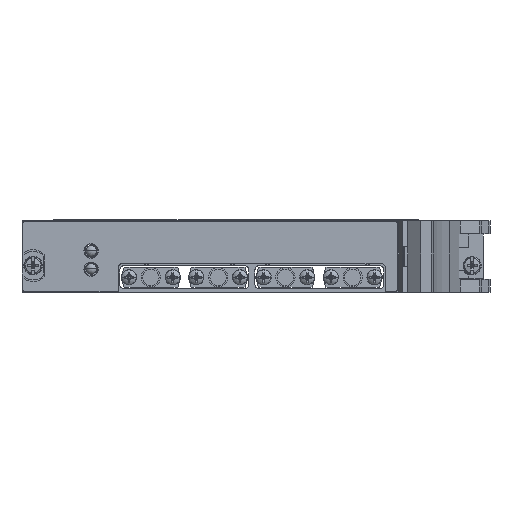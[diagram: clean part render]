
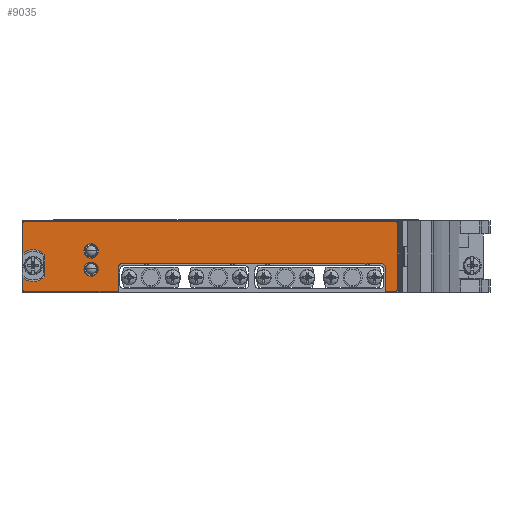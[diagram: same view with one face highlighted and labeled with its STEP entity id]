
A CAD part, left-side view. The second image highlights one B-rep face of the part: STEP entity #9035.
In plain terms, the highlighted planar face has unit normal (-1, 0, 0).
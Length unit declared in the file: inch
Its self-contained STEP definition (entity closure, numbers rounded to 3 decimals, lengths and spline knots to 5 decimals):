
#3040=CARTESIAN_POINT('',(-0.215,-3.37708,0.175));
#3041=DIRECTION('',(-1.,0.,0.));
#3042=DIRECTION('',(0.,-1.,0.));
#3043=AXIS2_PLACEMENT_3D('',#3040,#3041,#3042);
#3045=CARTESIAN_POINT('',(-0.215,-0.537,0.175));
#3046=DIRECTION('',(-1.,0.,0.));
#3047=DIRECTION('',(0.,0.,1.));
#3048=AXIS2_PLACEMENT_3D('',#3045,#3046,#3047);
#3050=DIRECTION('',(0.,-1.,0.));
#3051=VECTOR('',#3050,1.02465);
#3052=CARTESIAN_POINT('',(-0.215,0.53465,-0.083));
#3053=LINE('',#3052,#3051);
#3054=CARTESIAN_POINT('',(-0.215,0.53465,-0.063));
#3055=DIRECTION('',(-1.,0.,0.));
#3056=DIRECTION('',(0.,1.,0.));
#3057=AXIS2_PLACEMENT_3D('',#3054,#3055,#3056);
#3059=DIRECTION('',(0.,0.,-1.));
#3060=VECTOR('',#3059,0.12953);
#3061=CARTESIAN_POINT('',(-0.215,0.55465,0.06653));
#3062=LINE('',#3061,#3060);
#3063=CARTESIAN_POINT('',(-0.215,0.44265,0.201));
#3064=DIRECTION('',(1.,0.,0.));
#3065=DIRECTION('',(0.,-0.737,-0.676));
#3066=AXIS2_PLACEMENT_3D('',#3063,#3064,#3065);
#3068=DIRECTION('',(0.,0.,-1.));
#3069=VECTOR('',#3068,0.23651);
#3070=CARTESIAN_POINT('',(-0.215,0.31365,0.31925));
#3071=LINE('',#3070,#3069);
#3072=CARTESIAN_POINT('',(-0.215,0.44265,0.201));
#3073=DIRECTION('',(1.,0.,0.));
#3074=DIRECTION('',(0.,0.64,0.768));
#3075=AXIS2_PLACEMENT_3D('',#3072,#3073,#3074);
#3077=DIRECTION('',(0.,0.,-1.));
#3078=VECTOR('',#3077,0.32953);
#3079=CARTESIAN_POINT('',(-0.215,0.55465,0.665));
#3080=LINE('',#3079,#3078);
#3081=CARTESIAN_POINT('',(-0.215,0.53465,0.665));
#3082=DIRECTION('',(-1.,0.,0.));
#3083=DIRECTION('',(0.,0.,1.));
#3084=AXIS2_PLACEMENT_3D('',#3081,#3082,#3083);
#3086=DIRECTION('',(0.,1.,0.));
#3087=VECTOR('',#3086,4.07);
#3088=CARTESIAN_POINT('',(-0.215,-3.53535,0.685));
#3089=LINE('',#3088,#3087);
#3090=CARTESIAN_POINT('',(-0.215,-3.53535,0.665));
#3091=DIRECTION('',(-1.,0.,0.));
#3092=DIRECTION('',(0.,-1.,0.));
#3093=AXIS2_PLACEMENT_3D('',#3090,#3091,#3092);
#3095=DIRECTION('',(0.,0.,1.));
#3096=VECTOR('',#3095,0.728);
#3097=CARTESIAN_POINT('',(-0.215,-3.55535,-0.063));
#3098=LINE('',#3097,#3096);
#3099=CARTESIAN_POINT('',(-0.215,-3.53535,-0.063));
#3100=DIRECTION('',(-1.,0.,0.));
#3101=DIRECTION('',(0.,0.,-1.));
#3102=AXIS2_PLACEMENT_3D('',#3099,#3100,#3101);
#3104=DIRECTION('',(0.,-1.,0.));
#3105=VECTOR('',#3104,0.11127);
#3106=CARTESIAN_POINT('',(-0.215,-3.42408,-0.083));
#3107=LINE('',#3106,#3105);
#3108=CARTESIAN_POINT('',(-0.215,-0.19435,0.162));
#3109=DIRECTION('',(-1.,0.,0.));
#3110=DIRECTION('',(0.,-1.,0.));
#3111=AXIS2_PLACEMENT_3D('',#3108,#3109,#3110);
#3113=CARTESIAN_POINT('',(-0.215,-0.19435,0.162));
#3114=DIRECTION('',(-1.,0.,0.));
#3115=DIRECTION('',(0.,1.,0.));
#3116=AXIS2_PLACEMENT_3D('',#3113,#3114,#3115);
#3118=CARTESIAN_POINT('',(-0.215,-0.19435,0.362));
#3119=DIRECTION('',(-1.,0.,0.));
#3120=DIRECTION('',(0.,-1.,0.));
#3121=AXIS2_PLACEMENT_3D('',#3118,#3119,#3120);
#3123=CARTESIAN_POINT('',(-0.215,-0.19435,0.362));
#3124=DIRECTION('',(-1.,0.,0.));
#3125=DIRECTION('',(0.,1.,0.));
#3126=AXIS2_PLACEMENT_3D('',#3123,#3124,#3125);
#3128=DIRECTION('',(0.,0.,-1.));
#3129=VECTOR('',#3128,0.258);
#3130=CARTESIAN_POINT('',(-0.215,-3.42408,0.175));
#3131=LINE('',#3130,#3129);
#3152=DIRECTION('',(0.,-1.,0.));
#3153=VECTOR('',#3152,2.84008);
#3154=CARTESIAN_POINT('',(-0.215,-0.537,0.222));
#3155=LINE('',#3154,#3153);
#3328=DIRECTION('',(0.,0.,1.));
#3329=VECTOR('',#3328,0.258);
#3330=CARTESIAN_POINT('',(-0.215,-0.49,-0.083));
#3331=LINE('',#3330,#3329);
#4767=CARTESIAN_POINT('',(-0.215,0.53465,0.685));
#4768=CARTESIAN_POINT('',(-0.215,0.55465,0.665));
#4769=VERTEX_POINT('',#4767);
#4770=VERTEX_POINT('',#4768);
#4771=CARTESIAN_POINT('',(-0.215,0.55465,0.33547));
#4772=VERTEX_POINT('',#4771);
#4773=CARTESIAN_POINT('',(-0.215,0.31365,0.31925));
#4774=VERTEX_POINT('',#4773);
#4775=CARTESIAN_POINT('',(-0.215,0.31365,0.08275));
#4776=VERTEX_POINT('',#4775);
#4777=CARTESIAN_POINT('',(-0.215,0.55465,0.06653));
#4778=VERTEX_POINT('',#4777);
#4779=CARTESIAN_POINT('',(-0.215,0.55465,-0.063));
#4780=VERTEX_POINT('',#4779);
#4781=CARTESIAN_POINT('',(-0.215,0.53465,-0.083));
#4782=VERTEX_POINT('',#4781);
#4783=CARTESIAN_POINT('',(-0.215,-3.53535,-0.083));
#4784=CARTESIAN_POINT('',(-0.215,-3.55535,-0.063));
#4785=VERTEX_POINT('',#4783);
#4786=VERTEX_POINT('',#4784);
#4787=CARTESIAN_POINT('',(-0.215,-3.55535,0.665));
#4788=VERTEX_POINT('',#4787);
#4789=CARTESIAN_POINT('',(-0.215,-3.53535,0.685));
#4790=VERTEX_POINT('',#4789);
#4791=CARTESIAN_POINT('',(-0.215,-0.27285,0.162));
#4792=CARTESIAN_POINT('',(-0.215,-0.11585,0.162));
#4793=VERTEX_POINT('',#4791);
#4794=VERTEX_POINT('',#4792);
#4795=CARTESIAN_POINT('',(-0.215,-0.27285,0.362));
#4796=CARTESIAN_POINT('',(-0.215,-0.11585,0.362));
#4797=VERTEX_POINT('',#4795);
#4798=VERTEX_POINT('',#4796);
#4799=CARTESIAN_POINT('',(-0.215,-0.537,0.222));
#4800=CARTESIAN_POINT('',(-0.215,-0.49,0.175));
#4801=VERTEX_POINT('',#4799);
#4802=VERTEX_POINT('',#4800);
#4803=CARTESIAN_POINT('',(-0.215,-3.42408,0.175));
#4804=CARTESIAN_POINT('',(-0.215,-3.37708,0.222));
#4805=VERTEX_POINT('',#4803);
#4806=VERTEX_POINT('',#4804);
#4807=CARTESIAN_POINT('',(-0.215,-0.49,-0.083));
#4808=VERTEX_POINT('',#4807);
#4809=CARTESIAN_POINT('',(-0.215,-3.42408,-0.083));
#4810=VERTEX_POINT('',#4809);
#8983=CARTESIAN_POINT('',(-0.215,0.44265,0.201));
#8984=DIRECTION('',(-1.,0.,0.));
#8985=DIRECTION('',(0.,0.,1.));
#8986=AXIS2_PLACEMENT_3D('',#8983,#8984,#8985);
#8987=PLANE('',#8986);
#8989=ORIENTED_EDGE('',*,*,#8988,.F.);
#8991=ORIENTED_EDGE('',*,*,#8990,.T.);
#8993=ORIENTED_EDGE('',*,*,#8992,.F.);
#8995=ORIENTED_EDGE('',*,*,#8994,.T.);
#8997=ORIENTED_EDGE('',*,*,#8996,.F.);
#8999=ORIENTED_EDGE('',*,*,#8998,.F.);
#9001=ORIENTED_EDGE('',*,*,#9000,.F.);
#9003=ORIENTED_EDGE('',*,*,#9002,.F.);
#9005=ORIENTED_EDGE('',*,*,#9004,.F.);
#9007=ORIENTED_EDGE('',*,*,#9006,.F.);
#9009=ORIENTED_EDGE('',*,*,#9008,.F.);
#9011=ORIENTED_EDGE('',*,*,#9010,.F.);
#9012=ORIENTED_EDGE('',*,*,#5456,.F.);
#9014=ORIENTED_EDGE('',*,*,#9013,.F.);
#9016=ORIENTED_EDGE('',*,*,#9015,.F.);
#9018=ORIENTED_EDGE('',*,*,#9017,.F.);
#9020=ORIENTED_EDGE('',*,*,#9019,.F.);
#9022=ORIENTED_EDGE('',*,*,#9021,.F.);
#9023=EDGE_LOOP('',(#8989,#8991,#8993,#8995,#8997,#8999,#9001,#9003,#9005,#9007,
#9009,#9011,#9012,#9014,#9016,#9018,#9020,#9022));
#9024=FACE_OUTER_BOUND('',#9023,.F.);
#9026=ORIENTED_EDGE('',*,*,#9025,.T.);
#9028=ORIENTED_EDGE('',*,*,#9027,.T.);
#9029=EDGE_LOOP('',(#9026,#9028));
#9030=FACE_BOUND('',#9029,.F.);
#9031=ORIENTED_EDGE('',*,*,#8963,.T.);
#9032=ORIENTED_EDGE('',*,*,#8977,.T.);
#9033=EDGE_LOOP('',(#9031,#9032));
#9034=FACE_BOUND('',#9033,.F.);
#9035=ADVANCED_FACE('',(#9024,#9030,#9034),#8987,.T.);
#3044=CIRCLE('',#3043,0.047);
#3049=CIRCLE('',#3048,0.047);
#3058=CIRCLE('',#3057,0.02);
#3067=CIRCLE('',#3066,0.175);
#3076=CIRCLE('',#3075,0.175);
#3085=CIRCLE('',#3084,0.02);
#3094=CIRCLE('',#3093,0.02);
#3103=CIRCLE('',#3102,0.02);
#3112=CIRCLE('',#3111,0.0785);
#3117=CIRCLE('',#3116,0.0785);
#3122=CIRCLE('',#3121,0.0785);
#3127=CIRCLE('',#3126,0.0785);
#5456=EDGE_CURVE('',#4769,#4770,#3085,.T.);
#8963=EDGE_CURVE('',#4797,#4798,#3122,.T.);
#8977=EDGE_CURVE('',#4798,#4797,#3127,.T.);
#8988=EDGE_CURVE('',#4805,#4810,#3131,.T.);
#8990=EDGE_CURVE('',#4805,#4806,#3044,.T.);
#8992=EDGE_CURVE('',#4801,#4806,#3155,.T.);
#8994=EDGE_CURVE('',#4801,#4802,#3049,.T.);
#8996=EDGE_CURVE('',#4808,#4802,#3331,.T.);
#8998=EDGE_CURVE('',#4782,#4808,#3053,.T.);
#9000=EDGE_CURVE('',#4780,#4782,#3058,.T.);
#9002=EDGE_CURVE('',#4778,#4780,#3062,.T.);
#9004=EDGE_CURVE('',#4776,#4778,#3067,.T.);
#9006=EDGE_CURVE('',#4774,#4776,#3071,.T.);
#9008=EDGE_CURVE('',#4772,#4774,#3076,.T.);
#9010=EDGE_CURVE('',#4770,#4772,#3080,.T.);
#9013=EDGE_CURVE('',#4790,#4769,#3089,.T.);
#9015=EDGE_CURVE('',#4788,#4790,#3094,.T.);
#9017=EDGE_CURVE('',#4786,#4788,#3098,.T.);
#9019=EDGE_CURVE('',#4785,#4786,#3103,.T.);
#9021=EDGE_CURVE('',#4810,#4785,#3107,.T.);
#9025=EDGE_CURVE('',#4793,#4794,#3112,.T.);
#9027=EDGE_CURVE('',#4794,#4793,#3117,.T.);
